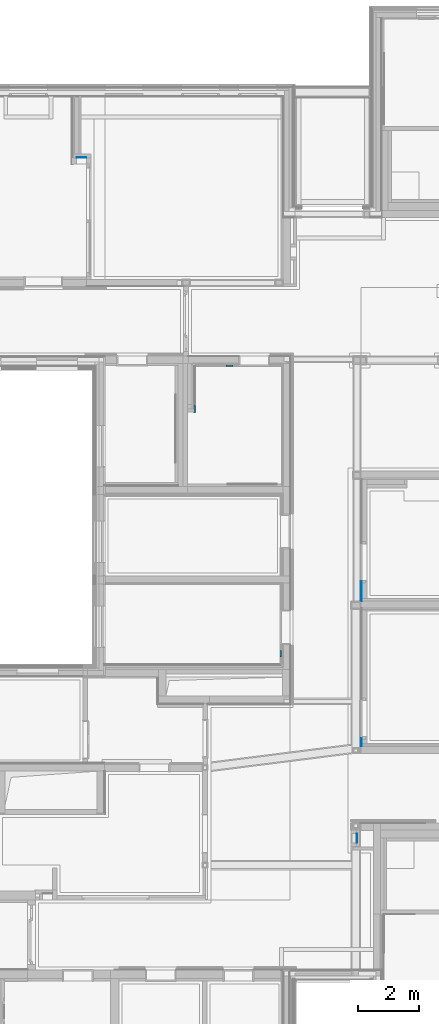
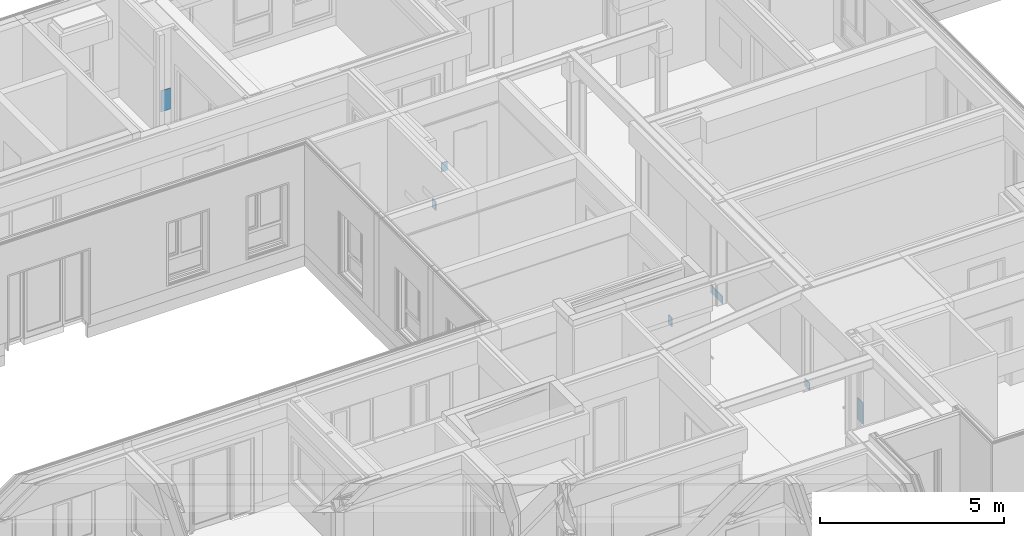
# One storey, part 156 of 207: 7 walls.
"""IFC4 building model written with IfcOpenShell, lengths in metres."""

from ifc_helpers import new_model, entity, si_unit, converted_unit, derived_unit, frame, origin, place, context, subcontext, project, spatial, faceted_brep, element, save


model = new_model("IFC4")

# Units and contexts
model_context = context("Model", 3, precision=1e-05, world=origin())
body_context = subcontext(model_context, "Body", "Model", "MODEL_VIEW")
ifc_project = project(units=[si_unit("LENGTHUNIT", "METRE"), si_unit("AREAUNIT", "SQUARE_METRE"), si_unit("VOLUMEUNIT", "CUBIC_METRE"), si_unit("MASSUNIT", "GRAM", prefix="KILO"), converted_unit("PLANEANGLEUNIT", "DEGREE", entity("IfcPlaneAngleMeasure", 0.0174532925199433), si_unit("PLANEANGLEUNIT", "RADIAN"), dimensions=[0, 0, 0, 0, 0, 0, 0]), derived_unit("THERMALTRANSMITTANCEUNIT", [(si_unit("POWERUNIT", "WATT"), 1), (si_unit("THERMODYNAMICTEMPERATUREUNIT", "KELVIN"), -1), (si_unit("LENGTHUNIT", "METRE"), -2)]), derived_unit("VOLUMETRICFLOWRATEUNIT", [(si_unit("LENGTHUNIT", "METRE"), 3), (converted_unit("TIMEUNIT", "hour", entity("IfcTimeMeasure", 3600.0), si_unit("TIMEUNIT", "SECOND"), dimensions=[0, 0, 1, 0, 0, 0, 0]), -1), (si_unit("LENGTHUNIT", "METRE"), -1)])], contexts=[model_context])

# Site, building, storey
site_placement = place(None, origin())
site = spatial("IfcSite", under=ifc_project, at=site_placement, Name="Psychiatrie Neubau Wunstorf", CompositionType="ELEMENT")
building_placement = place(site_placement, origin())
building = spatial("IfcBuilding", under=site, at=building_placement, Name="Neubau H2 Stationsgebäude", CompositionType="ELEMENT")
storey_placement = place(building_placement, frame((0.0, 0.0, -0.2)))
storey = spatial("IfcBuildingStorey", under=building, at=storey_placement, Name="H2 Ebene 0", CompositionType="ELEMENT", Elevation=-0.2)

# Walls
wall_1_placement = place(storey_placement, frame((66.0354999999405, 20.2644980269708, 1.26)))
element("IfcWall", 1, at=wall_1_placement, inside=storey, Name="WV 1.1", context=body_context, shape_type="Brep", body=[
    faceted_brep([(0.2, 0.0, 0.0), (0.2, 0.025, 0.0), (0.0, 0.025, 0.0), (0.0, 0.0, 0.0), (0.2, 0.025, 0.3), (0.2, 0.0, 0.3), (0.0, 0.0, 0.3), (0.0, 0.025, 0.3)], [[[0, 1, 2, 3]], [[4, 5, 6, 7]], [[1, 0, 5, 4]], [[2, 1, 4, 7]], [[3, 2, 7, 6]], [[0, 3, 6, 5]]], orient=[[False], [False], [False], [False], [False], [False]]),
])
wall_2_placement = place(storey_placement, frame((67.796, 10.7585717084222, 1.26)))
element("IfcWall", 2, at=wall_2_placement, inside=storey, Name="WV 1.1", context=body_context, shape_type="Brep", body=[
    faceted_brep([(0.0, 0.0, 0.0), (0.025, 0.0, 0.0), (0.025, 0.2, 0.0), (0.0, 0.2, 0.0), (0.025, 0.0, 0.3), (0.0, 0.0, 0.3), (0.0, 0.2, 0.3), (0.025, 0.2, 0.3)], [[[0, 1, 2, 3]], [[4, 5, 6, 7]], [[1, 0, 5, 4]], [[2, 1, 4, 7]], [[3, 2, 7, 6]], [[0, 3, 6, 5]]], orient=[[False], [False], [False], [False], [False], [False]]),
])
wall_3_placement = place(storey_placement, frame((61.1515, 27.0639996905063, 0.85)))
element("IfcWall", 3, at=wall_3_placement, inside=storey, Name="WV 1.1", context=body_context, shape_type="Brep", body=[
    faceted_brep([(0.0, 0.025, 0.0), (0.0, 0.0, 0.0), (0.3, 0.0, 0.0), (0.3, 0.025, 0.0), (0.0, 0.0, 0.7), (0.0, 0.025, 0.7), (0.3, 0.025, 0.7), (0.3, 0.0, 0.7)], [[[0, 1, 2, 3]], [[4, 5, 6, 7]], [[1, 0, 5, 4]], [[2, 1, 4, 7]], [[3, 2, 7, 6]], [[0, 3, 6, 5]]], orient=[[False], [False], [False], [False], [False], [False]]),
])
wall_4_placement = place(storey_placement, frame((70.285490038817, 4.68500000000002, 0.85)))
element("IfcWall", 4, at=wall_4_placement, inside=storey, Name="WV 1.1", context=body_context, shape_type="Brep", body=[
    faceted_brep([(0.025, 0.3, 0.0), (0.0, 0.3, 0.0), (0.0, 0.0, 0.0), (0.025, 0.0, 0.0), (0.0, 0.3, 0.7), (0.025, 0.3, 0.7), (0.025, 0.0, 0.7), (0.0, 0.0, 0.7)], [[[0, 1, 2, 3]], [[4, 5, 6, 7]], [[1, 0, 5, 4]], [[2, 1, 4, 7]], [[3, 2, 7, 6]], [[0, 3, 6, 5]]], orient=[[False], [False], [False], [False], [False], [False]]),
])
wall_5_placement = place(storey_placement, frame((70.43, 12.585, 0.0)))
element("IfcWall", 5, at=wall_5_placement, inside=storey, Name="WV 1.1", context=body_context, shape_type="Brep", body=[
    faceted_brep([(0.025, 0.64, 0.0), (0.0, 0.64, 0.0), (0.0, 0.0, 0.0), (0.025, 0.0, 0.0), (0.0, 0.64, 0.25), (0.025, 0.64, 0.25), (0.025, 0.0, 0.25), (0.0, 0.0, 0.25)], [[[0, 1, 2, 3]], [[4, 5, 6, 7]], [[1, 0, 5, 4]], [[2, 1, 4, 7]], [[3, 2, 7, 6]], [[0, 3, 6, 5]]], orient=[[False], [False], [False], [False], [False], [False]]),
])
wall_6_placement = place(storey_placement, frame((70.4300000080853, 7.8395, 0.0)))
element("IfcWall", 6, at=wall_6_placement, inside=storey, Name="WV 1.1", context=body_context, shape_type="Brep", body=[
    faceted_brep([(0.025, 0.27, 0.0), (0.0, 0.27, 0.0), (0.0, 0.0, 0.0), (0.025, 0.0, 0.0), (0.0, 0.27, 0.25), (0.025, 0.27, 0.25), (0.025, 0.0, 0.25), (0.0, 0.0, 0.25)], [[[0, 1, 2, 3]], [[4, 5, 6, 7]], [[1, 0, 5, 4]], [[2, 1, 4, 7]], [[3, 2, 7, 6]], [[0, 3, 6, 5]]], orient=[[False], [False], [False], [False], [False], [False]]),
])
wall_7_placement = place(storey_placement, frame((64.985, 18.7609960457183, 1.26)))
element("IfcWall", 7, at=wall_7_placement, inside=storey, Name="WV 1.1", context=body_context, shape_type="Brep", body=[
    faceted_brep([(0.0, 0.0, 0.0), (0.025, 0.0, 0.0), (0.025, 0.2, 0.0), (0.0, 0.2, 0.0), (0.025, 0.0, 0.3), (0.0, 0.0, 0.3), (0.0, 0.2, 0.3), (0.025, 0.2, 0.3)], [[[0, 1, 2, 3]], [[4, 5, 6, 7]], [[1, 0, 5, 4]], [[2, 1, 4, 7]], [[3, 2, 7, 6]], [[0, 3, 6, 5]]], orient=[[False], [False], [False], [False], [False], [False]]),
])

save(model, "model.ifc")
